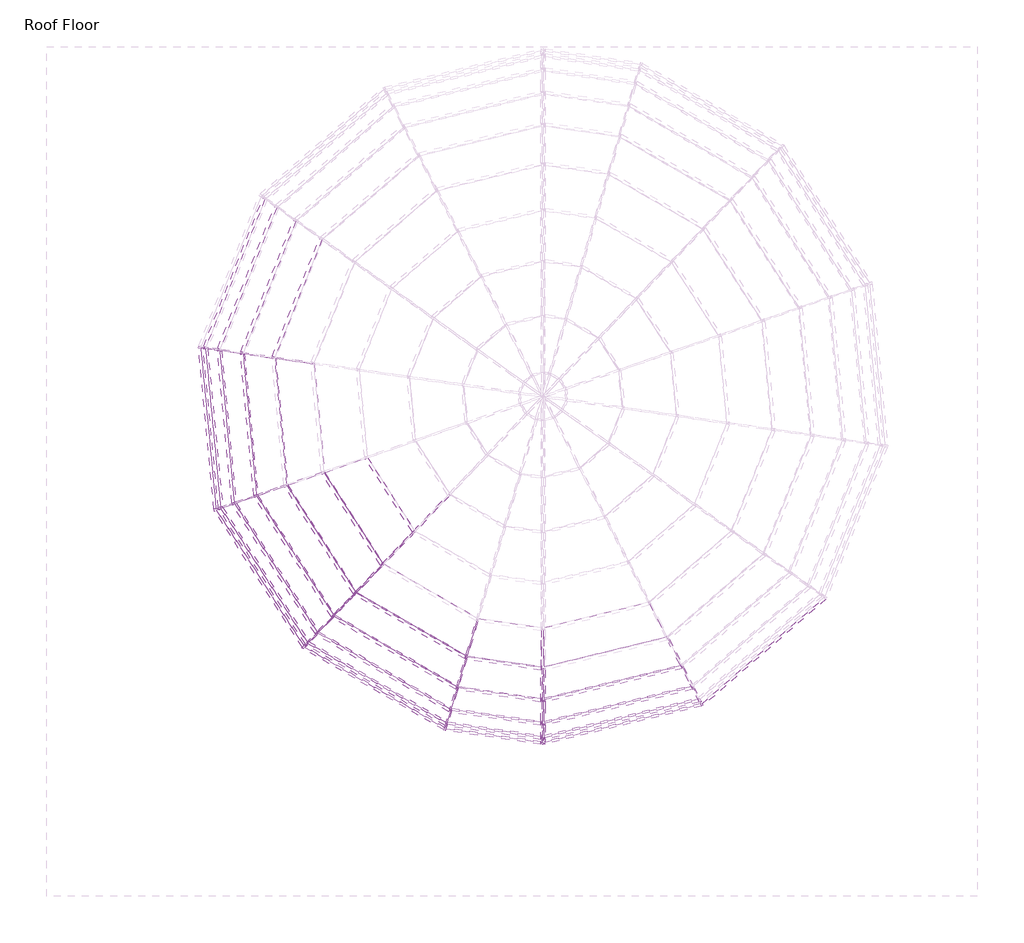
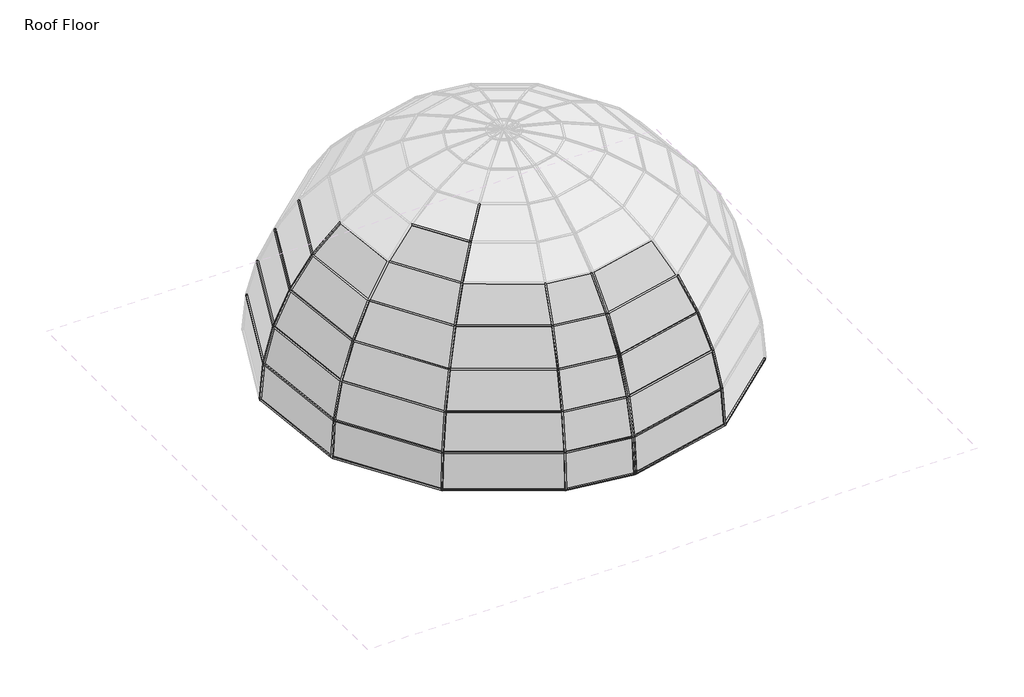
# One storey, part 1 of 5: 64 members, 26 plates.
"""IFC4 building model written with IfcOpenShell, lengths in millimetres."""

from ifc_helpers import new_model, si_unit, origin, place, context, project, spatial, transform, mapped, element, save
from components import member_4cbb40d8, member_e5884c93, member_19e455aa, member_1644e863, member_ecfbb555, member_824fc51d, member_1f5db4fb, member_3542fcca, member_54749c12, member_8c0c7285, member_24c90e2e, member_6952dcc5, member_c3dcfc8e, member_16816f3b, member_95e271e4, member_56577a18, member_7f7bd10d, member_e03b8e9c, member_dc775c2f, member_acb6b9ec, member_e077157f, member_8ccf5568, member_3c5b05b3, member_fd7ad58a, member_76afc974, member_c7f1f8f4, member_51c93bb0, system_panel_glazed_8f517b17, system_panel_glazed_e103372f, system_panel_glazed_d4e3dddd, system_panel_glazed_6000cac6, system_panel_glazed_c16507b5, system_panel_glazed_773f6a53, system_panel_glazed_509ce35e, system_panel_glazed_afa622ac, system_panel_glazed_fdc99001, system_panel_glazed_fc471d4c, system_panel_glazed_079f8796, system_panel_glazed_023fd094, system_panel_glazed_a1e2ecf7, system_panel_glazed_c9cd471f, system_panel_glazed_8f62df24, system_panel_glazed_44273b71

model = new_model("IFC4")

# Units and contexts
model_context = context("Model", 3, world=origin())
ifc_project = project(units=[si_unit("LENGTHUNIT", "METRE", prefix="MILLI")], contexts=[model_context])

# Site, building, storey
site = spatial("IfcSite", under=ifc_project)
building = spatial("IfcBuilding", under=site)
storey = spatial("IfcBuildingStorey", under=building, Name="Roof Floor", Elevation=15240.0)

# Members
placement = place(None, origin())
member_shape = member_4cbb40d8(model_context)
element("IfcMember", 1, ObjectType="Rectangular Mullion : 1\" Square", at=placement, inside=storey, context=model_context, shape_type="MappedRepresentation", body=[
    mapped(member_shape, transform((-2496.2458139, -4273.2496471, 21117.9670279), x_axis=(0.08886370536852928, 0.6165291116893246, 0.7823011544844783), y_axis=(-0.11160400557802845, -0.7742994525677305, 0.6229003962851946), z_axis=(0.9897715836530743, -0.14266117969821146, 0.0))),
])
member_2_shape = member_e5884c93(model_context)
element("IfcMember", 2, ObjectType="Rectangular Mullion : 1\" Square", at=placement, inside=storey, context=model_context, shape_type="MappedRepresentation", body=[
    mapped(member_2_shape, transform((-3496.18083, -4124.3511917, 21117.9670279), x_axis=(0.31528228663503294, 0.5452768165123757, 0.7767047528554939), y_axis=(-0.3887838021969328, -0.6723967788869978, 0.6298648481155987), z_axis=(0.8657044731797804, -0.5005554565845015, 0.0))),
])
element("IfcMember", 3, ObjectType="Rectangular Mullion : 1\" Square", at=placement, inside=storey, context=model_context, shape_type="MappedRepresentation", body=[
    mapped(member_2_shape, transform((-4957.4772001, -3272.7002476, 21117.9670279), x_axis=(0.5300546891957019, 0.3402524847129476, 0.7767047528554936), y_axis=(-0.6536259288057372, -0.4195752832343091, 0.6298648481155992), z_axis=(0.5401991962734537, -0.8415371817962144, 0.0))),
])
element("IfcMember", 4, ObjectType="Rectangular Mullion : 1\" Square", at=placement, inside=storey, context=model_context, shape_type="MappedRepresentation", body=[
    mapped(member_2_shape, transform((-6020.5401393, -161.9169828, 21117.9670279), x_axis=(0.5846780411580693, -0.23426761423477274, 0.7767047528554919), y_axis=(-0.7209835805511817, 0.28888224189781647, 0.6298648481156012), z_axis=(-0.3719331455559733, -0.9282595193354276, 0.0))),
])
member_3_shape = member_19e455aa(model_context)
element("IfcMember", 5, ObjectType="Rectangular Mullion : 1\" Square", at=placement, inside=storey, context=model_context, shape_type="MappedRepresentation", body=[
    mapped(member_3_shape, transform((-2496.2458139, -4693.39682, 20482.2624164), x_axis=(0.06901071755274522, 0.4787907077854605, 0.875212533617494), y_axis=(-0.12485885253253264, -0.8662604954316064, 0.4837385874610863), z_axis=(0.9897715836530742, -0.1426611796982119, 0.0))),
])
member_4_shape = member_1644e863(model_context)
element("IfcMember", 6, ObjectType="Rectangular Mullion : 1\" Square", at=placement, inside=storey, context=model_context, shape_type="MappedRepresentation", body=[
    mapped(member_4_shape, transform((-3614.8320569, -4527.3965158, 20482.2624164), x_axis=(0.24554093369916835, 0.42466000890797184, 0.8714204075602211), y_axis=(-0.4361942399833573, -0.7543925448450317, 0.4905369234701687), z_axis=(0.8657044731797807, -0.5005554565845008, 0.0))),
])
element("IfcMember", 7, ObjectType="Rectangular Mullion : 1\" Square", at=placement, inside=storey, context=model_context, shape_type="MappedRepresentation", body=[
    mapped(member_4_shape, transform((-5247.5892288, -3576.60592, 20482.2624164), x_axis=(0.4128050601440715, 0.264987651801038, 0.8714204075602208), y_axis=(-0.7333326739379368, -0.47074060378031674, 0.49053692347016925), z_axis=(0.5401991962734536, -0.8415371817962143, 0.0))),
])
element("IfcMember", 8, ObjectType="Rectangular Mullion : 1\" Square", at=placement, inside=storey, context=model_context, shape_type="MappedRepresentation", body=[
    mapped(member_4_shape, transform((-6263.3500422, -1983.4553593, 20482.2624164), x_axis=(0.4883347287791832, 0.04642914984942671, 0.8714204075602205), y_axis=(-0.867508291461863, -0.08247963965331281, 0.4905369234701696), z_axis=(0.09464965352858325, -0.9955106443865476, 0.0))),
])
element("IfcMember", 9, ObjectType="Rectangular Mullion : 1\" Square", at=placement, inside=storey, context=model_context, shape_type="MappedRepresentation", body=[
    mapped(member_4_shape, transform((-6436.389872, -101.9782914, 20482.2624164), x_axis=(0.4553455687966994, -0.18244694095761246, 0.8714204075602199), y_axis=(-0.8089042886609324, 0.32411013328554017, 0.49053692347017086), z_axis=(-0.37193314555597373, -0.9282595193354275, 0.0))),
])
member_5_shape = member_ecfbb555(model_context)
element("IfcMember", 10, ObjectType="Rectangular Mullion : 1\" Square", at=placement, inside=storey, context=model_context, shape_type="MappedRepresentation", body=[
    mapped(member_5_shape, transform((-6555.1468004, -2084.2947787, 19785.6060711), x_axis=(0.3344897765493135, 0.03180211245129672, 0.941862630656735), y_axis=(-0.9376342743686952, -0.08914697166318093, 0.3359981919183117), z_axis=(0.09464965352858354, -0.9955106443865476, 0.0))),
])
element("IfcMember", 11, ObjectType="Rectangular Mullion : 1\" Square", at=placement, inside=storey, context=model_context, shape_type="MappedRepresentation", body=[
    mapped(member_5_shape, transform((-6741.9616101, -57.9345693, 19785.6060711), x_axis=(0.3118935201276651, -0.12496886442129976, 0.9418626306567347), y_axis=(-0.874292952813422, 0.3503099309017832, 0.3359981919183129), z_axis=(-0.3719331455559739, -0.9282595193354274, 0.0))),
])
element("IfcMember", 12, ObjectType="Rectangular Mullion : 1\" Square", at=placement, inside=storey, context=model_context, shape_type="MappedRepresentation", body=[
    mapped(member_5_shape, transform((-3702.0185062, -4823.5594096, 19785.6060711), x_axis=(0.1681857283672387, 0.2908751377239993, 0.9418626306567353), y_axis=(-0.4714544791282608, -0.8153746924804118, 0.3359981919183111), z_axis=(0.8657044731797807, -0.500555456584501, 0.0))),
])
element("IfcMember", 13, ObjectType="Rectangular Mullion : 1\" Square", at=placement, inside=storey, context=model_context, shape_type="MappedRepresentation", body=[
    mapped(member_5_shape, transform((-5460.767283, -3799.9197212, 19785.6060711), x_axis=(0.28275497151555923, 0.18150595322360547, 0.9418626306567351), y_axis=(-0.7926124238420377, -0.5087934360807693, 0.3359981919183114), z_axis=(0.5401991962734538, -0.8415371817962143, 0.0))),
])
member_6_shape = member_824fc51d(model_context)
element("IfcMember", 14, ObjectType="Rectangular Mullion : 1\" Square", at=placement, inside=storey, context=model_context, shape_type="MappedRepresentation", body=[
    mapped(member_6_shape, transform((-504.4652648, -4528.7696197, 19785.6060711), x_axis=(-0.07919553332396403, 0.32653154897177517, 0.9418626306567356), y_axis=(0.22199915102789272, -0.9153259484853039, 0.33599819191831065), z_axis=(0.9718253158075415, 0.23570226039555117, 0.0))),
])
member_7_shape = member_1f5db4fb(model_context)
element("IfcMember", 15, ObjectType="Rectangular Mullion : 1\" Square", at=placement, inside=storey, context=model_context, shape_type="MappedRepresentation", body=[
    mapped(member_7_shape, transform((-2496.2458139, -5190.8624836, 19047.3495572), x_axis=(0.023932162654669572, 0.1660393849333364, 0.9858286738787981), y_axis=(-0.14063948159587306, -0.9757452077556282, 0.16775525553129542), z_axis=(0.9897715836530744, -0.1426611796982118, 0.0))),
])
member_8_shape = member_3542fcca(model_context)
element("IfcMember", 16, ObjectType="Rectangular Mullion : 1\" Square", at=placement, inside=storey, context=model_context, shape_type="MappedRepresentation", body=[
    mapped(member_8_shape, transform((-3755.318332, -5004.6131259, 19047.3495572), x_axis=(0.0854766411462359, 0.14783079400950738, 0.9853120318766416), y_axis=(-0.4932033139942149, -0.8529890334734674, 0.17076357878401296), z_axis=(0.8657044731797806, -0.5005554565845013, 0.0))),
])
element("IfcMember", 17, ObjectType="Rectangular Mullion : 1\" Square", at=placement, inside=storey, context=model_context, shape_type="MappedRepresentation", body=[
    mapped(member_8_shape, transform((-5591.08975, -3936.43849, 19047.3495572), x_axis=(0.14370390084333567, 0.09224634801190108, 0.9853120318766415), y_axis=(-0.8291767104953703, -0.532264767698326, 0.17076357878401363), z_axis=(0.5401991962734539, -0.8415371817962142, 0.0))),
])
element("IfcMember", 18, ObjectType="Rectangular Mullion : 1\" Square", at=placement, inside=storey, context=model_context, shape_type="MappedRepresentation", body=[
    mapped(member_8_shape, transform((-6733.5313603, -2145.9410957, 19047.3495572), x_axis=(0.16999696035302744, 0.016162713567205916, 0.9853120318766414), y_axis=(-0.9808886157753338, -0.09325944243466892, 0.17076357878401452), z_axis=(0.09464965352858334, -0.9955106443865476, 0.0))),
])
element("IfcMember", 19, ObjectType="Rectangular Mullion : 1\" Square", at=placement, inside=storey, context=model_context, shape_type="MappedRepresentation", body=[
    mapped(member_8_shape, transform((-6928.7672496, -31.009253, 19047.3495572), x_axis=(0.1585129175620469, -0.0635126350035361, 0.9853120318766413), y_axis=(-0.9146252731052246, 0.3664702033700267, 0.17076357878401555), z_axis=(-0.37193314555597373, -0.9282595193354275, 0.0))),
])
member_9_shape = member_54749c12(model_context)
element("IfcMember", 20, ObjectType="Rectangular Mullion : 1\" Square", at=placement, inside=storey, context=model_context, shape_type="MappedRepresentation", body=[
    mapped(member_9_shape, transform((-645.9013264, -4254.3433509, 20482.2624164), x_axis=(-0.1156206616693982, 0.4767162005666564, 0.8714204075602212), y_axis=(0.20539575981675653, -0.8468684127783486, 0.49053692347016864), z_axis=(0.9718253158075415, 0.2357022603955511, 0.0))),
])
member_10_shape = member_8c0c7285(model_context)
element("IfcMember", 21, ObjectType="Rectangular Mullion : 1\" Square", at=placement, inside=storey, context=model_context, shape_type="MappedRepresentation", body=[
    mapped(member_10_shape, transform((-2496.2458139, -5002.1263725, 19785.6060711), x_axis=(0.047160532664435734, 0.32719591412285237, 0.9437789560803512), y_axis=(-0.13464061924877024, -0.9341255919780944, 0.33057719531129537), z_axis=(0.989771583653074, -0.14266117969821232, 0.0))),
])
member_11_shape = member_24c90e2e(model_context)
element("IfcMember", 22, ObjectType="Rectangular Mullion : 1\" Square", at=placement, inside=storey, context=model_context, shape_type="MappedRepresentation", body=[
    mapped(member_11_shape, transform((-418.0009402, -4696.5350518, 19047.3495572), x_axis=(-0.04024936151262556, 0.16595236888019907, 0.9853120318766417), y_axis=(0.2322402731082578, -0.9575511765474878, 0.17076357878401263), z_axis=(0.9718253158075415, 0.23570226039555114, 0.0))),
])
member_12_shape = member_6952dcc5(model_context)
element("IfcMember", 23, ObjectType="Rectangular Mullion : 1\" Square", at=placement, inside=storey, context=model_context, shape_type="MappedRepresentation", body=[
    mapped(member_12_shape, transform((-6995.1392456, -46.3821492, 18288.0), x_axis=(-0.08063742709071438, -0.007666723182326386, -0.9967140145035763), y_axis=(-0.9922394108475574, -0.09433863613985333, 0.08100106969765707), z_axis=(-0.09464965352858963, 0.995510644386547, 0.0))),
])
element("IfcMember", 24, ObjectType="Rectangular Mullion : 1\" Square", at=placement, inside=storey, context=model_context, shape_type="MappedRepresentation", body=[
    mapped(member_12_shape, transform((-6785.4860151, -2190.0124201, 18288.0), x_axis=(-0.06816541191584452, -0.043756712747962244, -0.9967140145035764), y_axis=(-0.8387719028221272, -0.538424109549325, 0.08100106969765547), z_axis=(-0.5401991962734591, 0.8415371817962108, 0.0))),
])
element("IfcMember", 25, ObjectType="Rectangular Mullion : 1\" Square", at=placement, inside=storey, context=model_context, shape_type="MappedRepresentation", body=[
    mapped(member_12_shape, transform((-5617.0815847, -3999.4146149, 18288.0), x_axis=(-0.0405455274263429, -0.07012298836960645, -0.9967140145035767), y_axis=(-0.4989106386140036, -0.8628597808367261, 0.08100106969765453), z_axis=(-0.8657044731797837, 0.5005554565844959, 0.0))),
])
element("IfcMember", 26, ObjectType="Rectangular Mullion : 1\" Square", at=placement, inside=storey, context=model_context, shape_type="MappedRepresentation", body=[
    mapped(member_12_shape, transform((-366.9684834, -4741.6710256, 18288.0), x_axis=(0.053033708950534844, -0.06122580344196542, -0.9967140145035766), y_axis=(0.6525770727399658, -0.7533803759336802, 0.08100106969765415), z_axis=(-0.7558641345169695, -0.6547285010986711, 0.0))),
])
member_13_shape = member_c3dcfc8e(model_context)
element("IfcMember", 27, ObjectType="Rectangular Mullion : 1\" Square", at=placement, inside=storey, context=model_context, shape_type="MappedRepresentation", body=[
    mapped(member_13_shape, transform((-3749.6864378, -5073.6972463, 18288.0), x_axis=(-0.011767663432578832, -0.0816430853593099, -0.9965921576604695), y_axis=(-0.14217501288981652, -0.9863985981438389, 0.0824867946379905), z_axis=(-0.989771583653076, 0.14266117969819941, 0.0))),
])
member_14_shape = member_16816f3b(model_context)
element("IfcMember", 28, ObjectType="Rectangular Mullion : 1\" Square", at=placement, inside=storey, context=model_context, shape_type="MappedRepresentation", body=[
    mapped(member_14_shape, transform((-4180.5990919, -2458.884754, 22138.0708204), x_axis=(0.7144526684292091, 0.45862115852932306, 0.5284165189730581), y_axis=(-0.4446821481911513, -0.285450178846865, 0.8489852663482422), z_axis=(0.5401991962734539, -0.8415371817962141, 0.0))),
])
member_15_shape = member_95e271e4(model_context)
element("IfcMember", 29, ObjectType="Rectangular Mullion : 1\" Square", at=placement, inside=storey, context=model_context, shape_type="MappedRepresentation", body=[
    mapped(member_15_shape, transform((-4598.4898643, -2896.6445282, 21675.0614442), x_axis=(0.631396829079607, 0.40530598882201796, 0.6611089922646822), y_axis=(-0.5563477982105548, -0.35713054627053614, 0.75028987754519), z_axis=(0.5401991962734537, -0.8415371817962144, 0.0))),
])
member_16_shape = member_56577a18(model_context)
element("IfcMember", 30, ObjectType="Rectangular Mullion : 1\" Square", at=placement, inside=storey, context=model_context, shape_type="MappedRepresentation", body=[
    mapped(member_16_shape, transform((-2446.4212527, -5251.9992402, 18288.0), x_axis=(0.01909213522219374, -0.078718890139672, -0.9967140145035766), y_axis=(0.23492774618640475, -0.9686319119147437, 0.08100106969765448), z_axis=(-0.9718253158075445, -0.2357022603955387, 0.0))),
])
member_17_shape = member_7f7bd10d(model_context)
element("IfcMember", 31, ObjectType="Rectangular Mullion : 1\" Square", at=placement, inside=storey, context=model_context, shape_type="MappedRepresentation", body=[
    mapped(member_17_shape, transform((-6933.4908006, -42.7981489, 19047.3495572), x_axis=(-0.14266117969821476, -0.9897715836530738, 0.0), y_axis=(-0.9589308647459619, 0.13821593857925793, 0.2476851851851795), z_axis=(-0.24515175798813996, 0.03533506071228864, -0.9688405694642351))),
])
element("IfcMember", 32, ObjectType="Rectangular Mullion : 1\" Square", at=placement, inside=storey, context=model_context, shape_type="MappedRepresentation", body=[
    mapped(member_17_shape, transform((-6746.685161, -69.7234652, 19785.6060711), x_axis=(-0.14266117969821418, -0.9897715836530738, 0.0), y_axis=(-0.9048958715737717, 0.13042758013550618, 0.4051568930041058), z_axis=(-0.4010127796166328, 0.05780016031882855, -0.9142471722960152))),
])
element("IfcMember", 33, ObjectType="Rectangular Mullion : 1\" Square", at=placement, inside=storey, context=model_context, shape_type="MappedRepresentation", body=[
    mapped(member_17_shape, transform((-6441.1134229, -113.7671873, 20482.2624164), x_axis=(-0.14266117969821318, -0.989771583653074, 0.0), y_axis=(-0.825724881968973, 0.11901623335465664, 0.5513742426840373), z_axis=(-0.5457345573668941, 0.07865969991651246, -0.834258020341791))),
])
element("IfcMember", 34, ObjectType="Rectangular Mullion : 1\" Square", at=placement, inside=storey, context=model_context, shape_type="MappedRepresentation", body=[
    mapped(member_17_shape, transform((-6025.2636902, -173.7058787, 21117.9670279), x_axis=(-0.14266117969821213, -0.9897715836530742, 0.0), y_axis=(-0.7236170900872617, 0.10429888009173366, 0.6822756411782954), z_axis=(-0.6752970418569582, 0.09733424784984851, -0.7310950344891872))),
])
element("IfcMember", 35, ObjectType="Rectangular Mullion : 1\" Square", at=placement, inside=storey, context=model_context, shape_type="MappedRepresentation", body=[
    mapped(member_17_shape, transform((-405.6587587, -4693.5416331, 19047.3495572), x_axis=(0.8888888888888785, 0.4581228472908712, 0.0), y_axis=(0.4438480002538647, -0.8611916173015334, 0.24768518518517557), z_axis=(0.11347024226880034, -0.2201646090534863, -0.9688405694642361))),
])
element("IfcMember", 36, ObjectType="Rectangular Mullion : 1\" Square", at=placement, inside=storey, context=model_context, shape_type="MappedRepresentation", body=[
    mapped(member_17_shape, transform((-492.1230833, -4525.776201, 19785.6060711), x_axis=(0.8888888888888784, 0.45812284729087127, 0.0), y_axis=(0.4188375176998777, -0.8126641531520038, 0.40515689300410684), z_axis=(0.18561162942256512, -0.36013946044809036, -0.9142471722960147))),
])
element("IfcMember", 37, ObjectType="Rectangular Mullion : 1\" Square", at=placement, inside=storey, context=model_context, shape_type="MappedRepresentation", body=[
    mapped(member_17_shape, transform((-633.5591449, -4251.3499322, 20482.2624164), x_axis=(0.8888888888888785, 0.458122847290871, 0.0), y_axis=(0.38219265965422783, -0.741562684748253, 0.5513742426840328), z_axis=(0.2525971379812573, -0.4901104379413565, -0.8342580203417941))),
])
member_18_shape = member_e03b8e9c(model_context)
element("IfcMember", 38, ObjectType="Rectangular Mullion : 1\" Square", at=placement, inside=storey, context=model_context, shape_type="MappedRepresentation", body=[
    mapped(member_18_shape, transform((-2471.1056157, -5194.4860776, 19047.3495572), x_axis=(-0.9720128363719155, -0.2341106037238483, 0.019577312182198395), y_axis=(0.2349277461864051, -0.9686319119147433, 0.08100106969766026), z_axis=(0.0, 0.08333333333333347, 0.9965217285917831))),
])
member_19_shape = member_dc775c2f(model_context)
element("IfcMember", 39, ObjectType="Rectangular Mullion : 1\" Square", at=placement, inside=storey, context=model_context, shape_type="MappedRepresentation", body=[
    mapped(member_19_shape, transform((-2471.1056157, -5005.7499665, 19785.6060711), x_axis=(-0.9734856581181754, -0.2216203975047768, 0.05665750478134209), y_axis=(0.22874805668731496, -0.9431523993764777, 0.24111797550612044), z_axis=(0.0, 0.247685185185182, 0.9688405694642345))),
])
member_20_shape = member_acb6b9ec(model_context)
element("IfcMember", 40, ObjectType="Rectangular Mullion : 1\" Square", at=placement, inside=storey, context=model_context, shape_type="MappedRepresentation", body=[
    mapped(member_20_shape, transform((-2471.1056157, -4697.020414, 20482.2624164), x_axis=(-0.9762871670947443, -0.1979157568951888, 0.08770815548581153), y_axis=(0.21647948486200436, -0.8925677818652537, 0.395549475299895), z_axis=(0.0, 0.4051568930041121, 0.9142471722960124))),
])
member_21_shape = member_e077157f(model_context)
element("IfcMember", 41, ObjectType="Rectangular Mullion : 1\" Square", at=placement, inside=storey, context=model_context, shape_type="MappedRepresentation", body=[
    mapped(member_21_shape, transform((-2471.1056157, -4276.8732411, 21117.9670279), x_axis=(-0.980137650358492, -0.1654487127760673, 0.10934765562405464), y_axis=(0.19831839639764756, -0.8176876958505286, 0.5404226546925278), z_axis=(0.0, 0.5513742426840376, 0.8342580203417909))),
])
member_22_shape = member_8ccf5568(model_context)
element("IfcMember", 42, ObjectType="Rectangular Mullion : 1\" Square", at=placement, inside=storey, context=model_context, shape_type="MappedRepresentation", body=[
    mapped(member_22_shape, transform((-3762.2565369, -5071.8854493, 18288.0), x_axis=(0.9592955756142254, -0.2824039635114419, 0.0), y_axis=(-0.2814216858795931, -0.955958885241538, 0.08333333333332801), z_axis=(-0.023533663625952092, -0.07994129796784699, -0.9965217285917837))),
])
element("IfcMember", 43, ObjectType="Rectangular Mullion : 1\" Square", at=placement, inside=storey, context=model_context, shape_type="MappedRepresentation", body=[
    mapped(member_22_shape, transform((-5628.0760315, -3993.0575606, 18288.0), x_axis=(0.7233314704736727, -0.6905009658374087, 0.0), y_axis=(-0.6880992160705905, -0.7208155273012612, 0.08333333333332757), z_axis=(-0.05754174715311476, -0.06027762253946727, -0.9965217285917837))),
])
element("IfcMember", 44, ObjectType="Rectangular Mullion : 1\" Square", at=placement, inside=storey, context=model_context, shape_type="MappedRepresentation", body=[
    mapped(member_22_shape, transform((-6792.3465449, -2179.3248979, 18288.0), x_axis=(0.32662703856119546, -0.945153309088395, 0.0), y_axis=(-0.9418658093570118, -0.3254909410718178, 0.08333333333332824), z_axis=(-0.07876277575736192, -0.02721891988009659, -0.9965217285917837))),
])
member_23_shape = member_3c5b05b3(model_context)
element("IfcMember", 45, ObjectType="Rectangular Mullion : 1\" Square", at=placement, inside=storey, context=model_context, shape_type="MappedRepresentation", body=[
    mapped(member_23_shape, transform((-2471.1056157, -5194.4860776, 19047.3495572), x_axis=(0.9903900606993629, -0.1339928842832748, 0.03425543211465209), y_axis=(-0.1383023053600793, -0.9595300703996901, 0.24530494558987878), z_axis=(0.0, -0.24768518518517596, -0.9688405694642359))),
])
member_24_shape = member_fd7ad58a(model_context)
element("IfcMember", 46, ObjectType="Rectangular Mullion : 1\" Square", at=placement, inside=storey, context=model_context, shape_type="MappedRepresentation", body=[
    mapped(member_24_shape, transform((-2471.1056157, -5005.7499665, 19785.6060711), x_axis=(0.9914290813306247, -0.11944273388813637, 0.05293212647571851), y_axis=(-0.13064599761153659, -0.9064112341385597, 0.4016843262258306), z_axis=(0.0, -0.4051568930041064, -0.9142471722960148))),
])
member_25_shape = member_76afc974(model_context)
element("IfcMember", 47, ObjectType="Rectangular Mullion : 1\" Square", at=placement, inside=storey, context=model_context, shape_type="MappedRepresentation", body=[
    mapped(member_25_shape, transform((-2471.1056157, -4697.020414, 20482.2624164), x_axis=(0.9928478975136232, -0.09959885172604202, 0.06582644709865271), y_axis=(-0.11938614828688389, -0.8282913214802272, 0.5474307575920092), z_axis=(0.0, -0.5513742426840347, -0.8342580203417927))),
])
member_26_shape = member_c7f1f8f4(model_context)
element("IfcMember", 48, ObjectType="Rectangular Mullion : 1\" Square", at=placement, inside=storey, context=model_context, shape_type="MappedRepresentation", body=[
    mapped(member_26_shape, transform((-2471.1056157, -4276.8732411, 21117.9670279), x_axis=(0.9944936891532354, -0.07661618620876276, 0.07150008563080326), y_axis=(-0.10479648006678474, -0.7270693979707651, 0.6785188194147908), z_axis=(0.0, -0.6822756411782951, -0.7310950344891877))),
])
member_27_shape = member_51c93bb0(model_context)
element("IfcMember", 49, ObjectType="Rectangular Mullion : 1\" Square", at=placement, inside=storey, context=model_context, shape_type="MappedRepresentation", body=[
    mapped(member_27_shape, transform((-2471.1056157, -5257.9860776, 18288.0), x_axis=(0.9898415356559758, -0.14168048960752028, 0.011847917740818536), y_axis=(-0.14217501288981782, -0.9863985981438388, 0.08248679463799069), z_axis=(0.0, -0.08333333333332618, -0.9965217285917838))),
])
element("IfcMember", 50, ObjectType="Rectangular Mullion : 1\" Square", at=placement, inside=storey, context=model_context, shape_type="MappedRepresentation", body=[
    mapped(member_22_shape, transform((-6996.3412962, -33.739164, 18288.0), x_axis=(-0.14266117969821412, -0.9897715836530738, 0.0), y_axis=(-0.9863288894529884, 0.1421649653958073, 0.08333333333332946), z_axis=(-0.08248096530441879, 0.011888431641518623, -0.9965217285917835))),
])
element("IfcMember", 51, ObjectType="Rectangular Mullion : 1\" Square", at=placement, inside=storey, context=model_context, shape_type="MappedRepresentation", body=[
    mapped(member_22_shape, transform((-376.5679579, -4749.9860776, 18288.0), x_axis=(0.8888888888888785, 0.45812284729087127, 0.0), y_axis=(0.4565293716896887, -0.8857970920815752, 0.08333333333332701), z_axis=(0.038176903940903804, -0.0740740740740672, -0.9965217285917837))),
])
element("IfcMember", 52, ObjectType="Rectangular Mullion : 1\" Square", at=placement, inside=storey, context=model_context, shape_type="MappedRepresentation", body=[
    mapped(member_17_shape, transform((-6732.3293097, -2158.5840809, 19047.3495572), x_axis=(0.32662703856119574, -0.945153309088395, 0.0), y_axis=(-0.9157028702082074, -0.31644952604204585, 0.247685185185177), z_axis=(-0.23410047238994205, -0.08090067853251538, -0.9688405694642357))),
])
element("IfcMember", 53, ObjectType="Rectangular Mullion : 1\" Square", at=placement, inside=storey, context=model_context, shape_type="MappedRepresentation", body=[
    mapped(member_17_shape, transform((-6553.9447498, -2096.9377639, 19785.6060711), x_axis=(0.32662703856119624, -0.9451533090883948, 0.0), y_axis=(-0.864103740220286, -0.2986178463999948, 0.40515689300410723), z_axis=(-0.38293537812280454, -0.1323351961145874, -0.9142471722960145))),
])
element("IfcMember", 54, ObjectType="Rectangular Mullion : 1\" Square", at=placement, inside=storey, context=model_context, shape_type="MappedRepresentation", body=[
    mapped(member_17_shape, transform((-6262.1479916, -1996.0983444, 20482.2624164), x_axis=(0.32662703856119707, -0.9451533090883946, 0.0), y_axis=(-0.78850172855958, -0.2724912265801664, 0.5513742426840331), z_axis=(-0.521133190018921, -0.18009373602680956, -0.834258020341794))),
])
element("IfcMember", 55, ObjectType="Rectangular Mullion : 1\" Square", at=placement, inside=storey, context=model_context, shape_type="MappedRepresentation", body=[
    mapped(member_17_shape, transform((-5584.2292202, -3947.1260122, 19047.3495572), x_axis=(0.723331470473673, -0.6905009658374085, 0.0), y_axis=(-0.6689853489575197, -0.7007928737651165, 0.24768518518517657), z_axis=(-0.1710268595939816, -0.17915848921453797, -0.9688405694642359))),
])
element("IfcMember", 56, ObjectType="Rectangular Mullion : 1\" Square", at=placement, inside=storey, context=model_context, shape_type="MappedRepresentation", body=[
    mapped(member_17_shape, transform((-5453.9067532, -3810.6072434, 19785.6060711), x_axis=(0.7233314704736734, -0.6905009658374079, 0.0), y_axis=(-0.6312885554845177, -0.6613037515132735, 0.4051568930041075), z_axis=(-0.27976122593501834, -0.293062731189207, -0.9142471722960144))),
])
element("IfcMember", 57, ObjectType="Rectangular Mullion : 1\" Square", at=placement, inside=storey, context=model_context, shape_type="MappedRepresentation", body=[
    mapped(member_17_shape, transform((-5240.728699, -3587.2934423, 20482.2624164), x_axis=(0.7233314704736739, -0.6905009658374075, 0.0), y_axis=(-0.5760559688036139, -0.6034450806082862, 0.5513742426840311), z_axis=(-0.3807244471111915, -0.39882634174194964, -0.8342580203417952))),
])
element("IfcMember", 58, ObjectType="Rectangular Mullion : 1\" Square", at=placement, inside=storey, context=model_context, shape_type="MappedRepresentation", body=[
    mapped(member_17_shape, transform((-4950.6166703, -3283.3877699, 21117.9670279), x_axis=(0.7233314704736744, -0.6905009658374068, 0.0), y_axis=(-0.5048218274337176, -0.5288240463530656, 0.6822756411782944), z_axis=(-0.47111198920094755, -0.49351144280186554, -0.7310950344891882))),
])
element("IfcMember", 59, ObjectType="Rectangular Mullion : 1\" Square", at=placement, inside=storey, context=model_context, shape_type="MappedRepresentation", body=[
    mapped(member_17_shape, transform((-4591.6293345, -2907.3320504, 21675.0614442), x_axis=(0.7233314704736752, -0.6905009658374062, 0.0), y_axis=(-0.4195648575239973, -0.4395134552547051, 0.7942249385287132), z_axis=(-0.5484130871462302, -0.5744878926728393, -0.6076238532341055))),
])
element("IfcMember", 60, ObjectType="Rectangular Mullion : 1\" Square", at=placement, inside=storey, context=model_context, shape_type="MappedRepresentation", body=[
    mapped(member_17_shape, transform((-4173.7385621, -2469.5722762, 22138.0708204), x_axis=(0.7233314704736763, -0.6905009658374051, 0.0), y_axis=(-0.3226533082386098, -0.337994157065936, 0.8841124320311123), z_axis=(-0.6104804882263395, -0.6395063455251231, -0.46727423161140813))),
])
element("IfcMember", 61, ObjectType="Rectangular Mullion : 1\" Square", at=placement, inside=storey, context=model_context, shape_type="MappedRepresentation", body=[
    mapped(member_17_shape, transform((-3744.3238852, -5010.9701802, 19047.3495572), x_axis=(0.9592955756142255, -0.28240396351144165, 0.0), y_axis=(-0.27360441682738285, -0.9294044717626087, 0.24768518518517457), z_axis=(-0.06994727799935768, -0.23760330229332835, -0.9688405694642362))),
])
element("IfcMember", 62, ObjectType="Rectangular Mullion : 1\" Square", at=placement, inside=storey, context=model_context, shape_type="MappedRepresentation", body=[
    mapped(member_17_shape, transform((-3691.0240594, -4829.9164639, 19785.6060711), x_axis=(0.9592955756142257, -0.282403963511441, 0.0), y_axis=(-0.25818702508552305, -0.8770332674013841, 0.40515689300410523), z_axis=(-0.11441791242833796, -0.38866521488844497, -0.9142471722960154))),
])
element("IfcMember", 63, ObjectType="Rectangular Mullion : 1\" Square", at=placement, inside=storey, context=model_context, shape_type="MappedRepresentation", body=[
    mapped(member_17_shape, transform((-3603.8376101, -4533.7535701, 20482.2624164), x_axis=(0.9592955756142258, -0.2824039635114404, 0.0), y_axis=(-0.23559777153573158, -0.800300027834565, 0.5513742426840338), z_axis=(-0.15571027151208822, -0.5289308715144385, -0.8342580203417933))),
])
element("IfcMember", 64, ObjectType="Rectangular Mullion : 1\" Square", at=placement, inside=storey, context=model_context, shape_type="MappedRepresentation", body=[
    mapped(member_17_shape, transform((-3485.1863832, -4130.708246, 21117.9670279), x_axis=(0.9592955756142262, -0.28240396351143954, 0.0), y_axis=(-0.20646413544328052, -0.7013362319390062, 0.6822756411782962), z_axis=(-0.19267734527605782, -0.6545040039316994, -0.7310950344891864))),
])

# Plates
system_panel_glazed_shape = system_panel_glazed_8f517b17(model_context)
element("IfcPlate", 65, ObjectType="System Panel : Glazed", at=placement, inside=storey, context=model_context, shape_type="MappedRepresentation", body=[
    mapped(system_panel_glazed_shape, transform((-1418.1494455, -5000.4896196, 18313.316536), x_axis=(0.9718253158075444, 0.23570226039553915, 0.0), y_axis=(-0.2349277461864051, 0.9686319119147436, -0.08100106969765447), z_axis=(-0.01909213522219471, 0.07871889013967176, 0.9967140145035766))),
])
system_panel_glazed_2_shape = system_panel_glazed_e103372f(model_context)
element("IfcPlate", 66, ObjectType="System Panel : Glazed", at=placement, inside=storey, context=model_context, shape_type="MappedRepresentation", body=[
    mapped(system_panel_glazed_2_shape, transform((-6892.2957299, -1106.3372962, 18313.316536), x_axis=(0.09464965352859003, -0.9955106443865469, 0.0), y_axis=(0.9922394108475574, 0.09433863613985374, -0.08100106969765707), z_axis=(0.08063742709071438, 0.007666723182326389, 0.9967140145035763))),
])
element("IfcPlate", 67, ObjectType="System Panel : Glazed", at=placement, inside=storey, context=model_context, shape_type="MappedRepresentation", body=[
    mapped(system_panel_glazed_2_shape, transform((-6208.4798867, -3085.0798087, 18313.316536), x_axis=(0.5401991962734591, -0.8415371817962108, 0.0), y_axis=(0.8387719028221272, 0.538424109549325, -0.08100106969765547), z_axis=(0.06816541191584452, 0.04375671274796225, 0.9967140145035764))),
])
element("IfcPlate", 68, ObjectType="System Panel : Glazed", at=placement, inside=storey, context=model_context, shape_type="MappedRepresentation", body=[
    mapped(system_panel_glazed_2_shape, transform((-4694.1364278, -4530.690381, 18313.316536), x_axis=(0.865704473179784, -0.5005554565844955, 0.0), y_axis=(0.4989106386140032, 0.8628597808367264, -0.08100106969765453), z_axis=(0.04054552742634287, 0.07012298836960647, 0.9967140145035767))),
])
system_panel_glazed_3_shape = system_panel_glazed_d4e3dddd(model_context)
element("IfcPlate", 69, ObjectType="System Panel : Glazed", at=placement, inside=storey, context=model_context, shape_type="MappedRepresentation", body=[
    mapped(system_panel_glazed_3_shape, transform((-3122.6676714, -5161.9560665, 18313.3134408), x_axis=(0.9897715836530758, -0.14266117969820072, 0.0), y_axis=(0.14217501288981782, 0.9863985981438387, -0.08248679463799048), z_axis=(0.01176766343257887, 0.08164308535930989, 0.9965921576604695))),
])
system_panel_glazed_4_shape = system_panel_glazed_6000cac6(model_context)
element("IfcPlate", 70, ObjectType="System Panel : Glazed", at=placement, inside=storey, context=model_context, shape_type="MappedRepresentation", body=[
    mapped(system_panel_glazed_4_shape, transform((-1432.9223203, -4939.5386671, 19059.674854), x_axis=(0.9718253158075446, 0.23570226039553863, 0.0), y_axis=(-0.22874805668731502, 0.9431523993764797, -0.2411179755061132), z_axis=(-0.0568320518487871, 0.23432455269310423, 0.9704958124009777))),
])
system_panel_glazed_5_shape = system_panel_glazed_c16507b5(model_context)
element("IfcPlate", 71, ObjectType="System Panel : Glazed", at=placement, inside=storey, context=model_context, shape_type="MappedRepresentation", body=[
    mapped(system_panel_glazed_5_shape, transform((-6829.8616042, -1100.4012789, 19059.674854), x_axis=(0.0946496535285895, -0.995510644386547, 0.0), y_axis=(0.9661389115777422, 0.09185709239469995, -0.2411179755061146), z_axis=(0.240035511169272, 0.02282173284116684, 0.9704958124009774))),
])
element("IfcPlate", 72, ObjectType="System Panel : Glazed", at=placement, inside=storey, context=model_context, shape_type="MappedRepresentation", body=[
    mapped(system_panel_glazed_5_shape, transform((-6155.7023112, -3051.2008495, 19059.674854), x_axis=(0.5401991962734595, -0.8415371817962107, 0.0), y_axis=(0.8167083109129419, 0.5242610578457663, -0.24111797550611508), z_axis=(0.20290974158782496, 0.1302517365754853, 0.9704958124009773))),
])
element("IfcPlate", 73, ObjectType="System Panel : Glazed", at=placement, inside=storey, context=model_context, shape_type="MappedRepresentation", body=[
    mapped(system_panel_glazed_5_shape, transform((-4662.7437526, -4476.3971375, 19059.674854), x_axis=(0.865704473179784, -0.5005554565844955, 0.0), y_axis=(0.4857869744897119, 0.8401625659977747, -0.24111797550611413), z_axis=(0.12069291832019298, 0.20873690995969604, 0.9704958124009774))),
])
system_panel_glazed_6_shape = system_panel_glazed_773f6a53(model_context)
element("IfcPlate", 74, ObjectType="System Panel : Glazed", at=placement, inside=storey, context=model_context, shape_type="MappedRepresentation", body=[
    mapped(system_panel_glazed_6_shape, transform((-3113.5592846, -5098.7381569, 19059.661521), x_axis=(0.9897715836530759, -0.1426611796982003, 0.0), y_axis=(0.13830230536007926, 0.9595300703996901, -0.24530494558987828), z_axis=(0.034995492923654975, 0.24279586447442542, 0.9694459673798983))),
])
system_panel_glazed_7_shape = system_panel_glazed_509ce35e(model_context)
element("IfcPlate", 75, ObjectType="System Panel : Glazed", at=placement, inside=storey, context=model_context, shape_type="MappedRepresentation", body=[
    mapped(system_panel_glazed_7_shape, transform((-1476.5989712, -4759.3775593, 19797.2703184), x_axis=(0.9718253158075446, 0.23570226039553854, 0.0), y_axis=(-0.21647948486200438, 0.8925677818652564, -0.39554947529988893), z_axis=(-0.09323190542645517, 0.3844049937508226, 0.9184446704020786))),
])
system_panel_glazed_8_shape = system_panel_glazed_afa622ac(model_context)
element("IfcPlate", 76, ObjectType="System Panel : Glazed", at=placement, inside=storey, context=model_context, shape_type="MappedRepresentation", body=[
    mapped(system_panel_glazed_8_shape, transform((-6645.3140292, -1082.855144, 19797.2703184), x_axis=(0.09464965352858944, -0.995510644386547, 0.0), y_axis=(0.9143214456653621, 0.08693046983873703, -0.3955494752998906), z_axis=(0.3937737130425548, 0.03743862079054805, 0.9184446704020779))),
])
element("IfcPlate", 77, ObjectType="System Panel : Glazed", at=placement, inside=storey, context=model_context, shape_type="MappedRepresentation", body=[
    mapped(system_panel_glazed_8_shape, transform((-5999.6983077, -2951.0588247, 19797.2703184), x_axis=(0.5401991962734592, -0.8415371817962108, 0.0), y_axis=(0.7729053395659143, 0.49614307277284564, -0.39554947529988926), z_axis=(0.3328695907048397, 0.21367550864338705, 0.9184446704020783))),
])
element("IfcPlate", 78, ObjectType="System Panel : Glazed", at=placement, inside=storey, context=model_context, shape_type="MappedRepresentation", body=[
    mapped(system_panel_glazed_8_shape, transform((-4569.9508768, -4315.913006, 19797.2703184), x_axis=(0.8657044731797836, -0.5005554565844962, 0.0), y_axis=(0.45973249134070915, 0.7951016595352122, -0.3955494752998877), z_axis=(0.19799444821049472, 0.34242895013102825, 0.9184446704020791))),
])
system_panel_glazed_9_shape = system_panel_glazed_fdc99001(model_context)
element("IfcPlate", 79, ObjectType="System Panel : Glazed", at=placement, inside=storey, context=model_context, shape_type="MappedRepresentation", body=[
    mapped(system_panel_glazed_9_shape, transform((-3086.6326417, -4911.8765878, 19797.2364542), x_axis=(0.9897715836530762, -0.14266117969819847, 0.0), y_axis=(0.13064599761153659, 0.9064112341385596, -0.4016843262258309), z_axis=(0.05730475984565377, 0.39757573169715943, 0.9157781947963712))),
])
system_panel_glazed_10_shape = system_panel_glazed_fc471d4c(model_context)
element("IfcPlate", 80, ObjectType="System Panel : Glazed", at=placement, inside=storey, context=model_context, shape_type="MappedRepresentation", body=[
    mapped(system_panel_glazed_10_shape, transform((-1547.7262175, -4466.0056674, 20492.9481164), x_axis=(0.9718253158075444, 0.2357022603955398, 0.0), y_axis=(-0.19831839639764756, 0.8176876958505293, -0.5404226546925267), z_axis=(-0.12737884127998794, 0.5251964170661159, 0.8413936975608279))),
])
system_panel_glazed_11_shape = system_panel_glazed_079f8796(model_context)
element("IfcPlate", 81, ObjectType="System Panel : Glazed", at=placement, inside=storey, context=model_context, shape_type="MappedRepresentation", body=[
    mapped(system_panel_glazed_11_shape, transform((-6344.7981517, -1054.2831505, 20492.9481164), x_axis=(0.0946496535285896, -0.995510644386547, 0.0), y_axis=(0.8376163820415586, 0.07963762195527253, -0.5404226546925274), z_axis=(0.5379965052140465, 0.05115081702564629, 0.8413936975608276))),
])
element("IfcPlate", 82, ObjectType="System Panel : Glazed", at=placement, inside=storey, context=model_context, shape_type="MappedRepresentation", body=[
    mapped(system_panel_glazed_11_shape, transform((-5745.6625662, -2787.9883076, 20492.9481164), x_axis=(0.5401991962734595, -0.8415371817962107, 0.0), y_axis=(0.7080640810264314, 0.4545201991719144, -0.5404226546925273), z_axis=(0.4547857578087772, 0.29193588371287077, 0.8413936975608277))),
])
element("IfcPlate", 83, ObjectType="System Panel : Glazed", at=placement, inside=storey, context=model_context, shape_type="MappedRepresentation", body=[
    mapped(system_panel_glazed_11_shape, transform((-4418.8476584, -4054.5818581, 20492.9481164), x_axis=(0.8657044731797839, -0.5005554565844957, 0.0), y_axis=(0.42116420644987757, 0.7283982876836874, -0.540422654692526), z_axis=(0.27051150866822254, 0.4678463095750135, 0.8413936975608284))),
])
system_panel_glazed_12_shape = system_panel_glazed_023fd094(model_context)
element("IfcPlate", 84, ObjectType="System Panel : Glazed", at=placement, inside=storey, context=model_context, shape_type="MappedRepresentation", body=[
    mapped(system_panel_glazed_12_shape, transform((-3042.7843636, -4607.5970191, 20492.8904239), x_axis=(0.9897715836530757, -0.14266117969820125, 0.0), y_axis=(0.11938614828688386, 0.8282913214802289, -0.5474307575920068), z_axis=(0.07809711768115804, 0.5418314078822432, 0.8368509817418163))),
])
system_panel_glazed_13_shape = system_panel_glazed_a1e2ecf7(model_context)
element("IfcPlate", 85, ObjectType="System Panel : Glazed", at=placement, inside=storey, context=model_context, shape_type="MappedRepresentation", body=[
    mapped(system_panel_glazed_13_shape, transform((-1644.3303894, -4067.5716311, 21127.3743739), x_axis=(0.9718253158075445, 0.23570226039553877, 0.0), y_axis=(-0.17459312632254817, 0.7198659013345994, -0.6717963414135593), z_axis=(-0.1583439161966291, 0.6528686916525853, 0.7407359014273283))),
])
system_panel_glazed_14_shape = system_panel_glazed_c9cd471f(model_context)
element("IfcPlate", 86, ObjectType="System Panel : Glazed", at=placement, inside=storey, context=model_context, shape_type="MappedRepresentation", body=[
    mapped(system_panel_glazed_14_shape, transform((-5936.6605843, -1015.4788649, 21127.3743739), x_axis=(0.09464965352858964, -0.995510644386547, 0.0), y_axis=(0.7374104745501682, 0.07011039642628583, -0.6717963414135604), z_axis=(0.6687804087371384, 0.06358529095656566, 0.7407359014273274))),
])
element("IfcPlate", 87, ObjectType="System Panel : Glazed", at=placement, inside=storey, context=model_context, shape_type="MappedRepresentation", body=[
    mapped(system_panel_glazed_14_shape, transform((-5400.6507473, -2566.5184649, 21127.3743739), x_axis=(0.5401991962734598, -0.8415371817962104, 0.0), y_axis=(0.6233568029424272, 0.4001449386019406, -0.6717963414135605), z_axis=(0.5653415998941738, 0.3629038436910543, 0.7407359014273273))),
])
element("IfcPlate", 88, ObjectType="System Panel : Glazed", at=placement, inside=storey, context=model_context, shape_type="MappedRepresentation", body=[
    mapped(system_panel_glazed_14_shape, transform((-4213.6308809, -3699.6619788, 21127.3743739), x_axis=(0.8657044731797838, -0.5005554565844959, 0.0), y_axis=(0.3707793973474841, 0.641258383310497, -0.6717963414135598), z_axis=(0.3362713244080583, 0.581577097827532, 0.7407359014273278))),
])
system_panel_glazed_15_shape = system_panel_glazed_8f62df24(model_context)
element("IfcPlate", 89, ObjectType="System Panel : Glazed", at=placement, inside=storey, context=model_context, shape_type="MappedRepresentation", body=[
    mapped(system_panel_glazed_15_shape, transform((-2983.231696, -4194.3514743, 21127.2962322), x_axis=(0.989771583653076, -0.14266117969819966, 0.0), y_axis=(0.10479648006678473, 0.7270693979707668, -0.678518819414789), z_axis=(0.09679829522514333, 0.6715786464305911, 0.7345830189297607))),
])
system_panel_glazed_16_shape = system_panel_glazed_44273b71(model_context)
element("IfcPlate", 90, ObjectType="System Panel : Glazed", at=placement, inside=storey, context=model_context, shape_type="MappedRepresentation", body=[
    mapped(system_panel_glazed_16_shape, transform((-4974.2495354, -2292.8031771, 21682.9171425), x_axis=(0.5401991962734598, -0.8415371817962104, 0.0), y_axis=(0.5205403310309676, 0.33414503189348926, -0.7857384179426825), z_axis=(0.661228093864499, 0.4244552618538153, 0.6185589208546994))),
])

save(model, "model.ifc")
